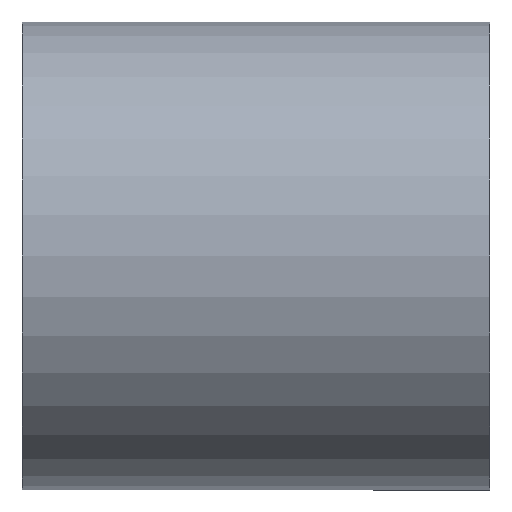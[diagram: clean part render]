
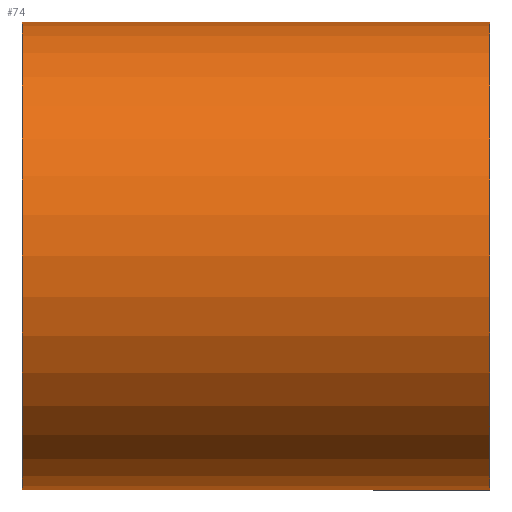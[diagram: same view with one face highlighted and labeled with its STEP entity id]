
A CAD part, front view. The second image highlights one B-rep face of the part: STEP entity #74.
In plain terms, the highlighted cylindrical face has radius 25 mm (diameter 50 mm), a partial arc.
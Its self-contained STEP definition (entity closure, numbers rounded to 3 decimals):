
#31 = EDGE_CURVE ( 'NONE', #594, #304, #406, .T. ) ;
#74 = ADVANCED_FACE ( 'NONE', ( #261 ), #245, .T. ) ;
#154 = CARTESIAN_POINT ( 'NONE',  ( -25., 0., 0. ) ) ;
#155 = CARTESIAN_POINT ( 'NONE',  ( 25., 0., -25. ) ) ;
#156 = CARTESIAN_POINT ( 'NONE',  ( 0., 0., 0. ) ) ;
#172 = VERTEX_POINT ( 'NONE', #448 ) ;
#193 = DIRECTION ( 'NONE',  ( -1., 0., 0. ) ) ;
#245 = CYLINDRICAL_SURFACE ( 'NONE', #500, 25. ) ;
#253 = DIRECTION ( 'NONE',  ( -1., 0., 0. ) ) ;
#260 = DIRECTION ( 'NONE',  ( -1., 0., 0. ) ) ;
#261 = FACE_OUTER_BOUND ( 'NONE', #337, .T. ) ;
#304 = VERTEX_POINT ( 'NONE', #342 ) ;
#309 = CIRCLE ( 'NONE', #778, 25. ) ;
#337 = EDGE_LOOP ( 'NONE', ( #452, #360, #548, #724 ) ) ;
#342 = CARTESIAN_POINT ( 'NONE',  ( -25., 0., 25. ) ) ;
#345 = VERTEX_POINT ( 'NONE', #155 ) ;
#359 = DIRECTION ( 'NONE',  ( 0., 0., 1. ) ) ;
#360 = ORIENTED_EDGE ( 'NONE', *, *, #705, .T. ) ;
#393 = CARTESIAN_POINT ( 'NONE',  ( 25., 0., 0. ) ) ;
#406 = LINE ( 'NONE', #464, #511 ) ;
#448 = CARTESIAN_POINT ( 'NONE',  ( -25., 0., -25. ) ) ;
#451 = CARTESIAN_POINT ( 'NONE',  ( 25., 0., 25. ) ) ;
#452 = ORIENTED_EDGE ( 'NONE', *, *, #549, .F. ) ;
#464 = CARTESIAN_POINT ( 'NONE',  ( 0., 0., 25. ) ) ;
#500 = AXIS2_PLACEMENT_3D ( 'NONE', #156, #574, #359 ) ;
#511 = VECTOR ( 'NONE', #880, 1000. ) ;
#525 = DIRECTION ( 'NONE',  ( 0., 0., 1. ) ) ;
#536 = CIRCLE ( 'NONE', #654, 25. ) ;
#548 = ORIENTED_EDGE ( 'NONE', *, *, #31, .T. ) ;
#549 = EDGE_CURVE ( 'NONE', #345, #172, #790, .T. ) ;
#574 = DIRECTION ( 'NONE',  ( -1., 0., 0. ) ) ;
#594 = VERTEX_POINT ( 'NONE', #451 ) ;
#654 = AXIS2_PLACEMENT_3D ( 'NONE', #393, #260, #803 ) ;
#670 = VECTOR ( 'NONE', #193, 1000. ) ;
#694 = EDGE_CURVE ( 'NONE', #172, #304, #309, .T. ) ;
#705 = EDGE_CURVE ( 'NONE', #345, #594, #536, .T. ) ;
#724 = ORIENTED_EDGE ( 'NONE', *, *, #694, .F. ) ;
#778 = AXIS2_PLACEMENT_3D ( 'NONE', #154, #253, #525 ) ;
#790 = LINE ( 'NONE', #794, #670 ) ;
#794 = CARTESIAN_POINT ( 'NONE',  ( 0., 0., -25. ) ) ;
#803 = DIRECTION ( 'NONE',  ( 0., 0., 1. ) ) ;
#880 = DIRECTION ( 'NONE',  ( -1., 0., 0. ) ) ;
